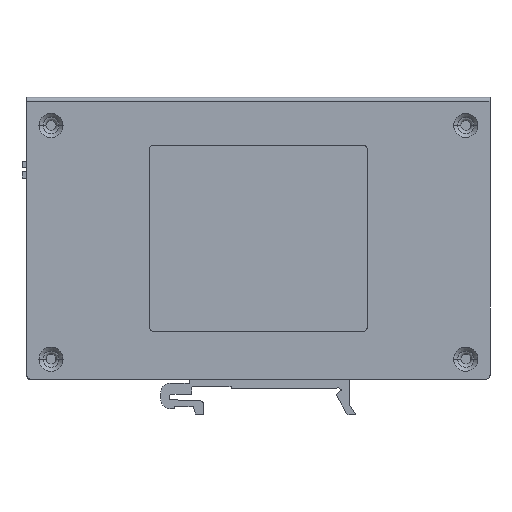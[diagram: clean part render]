
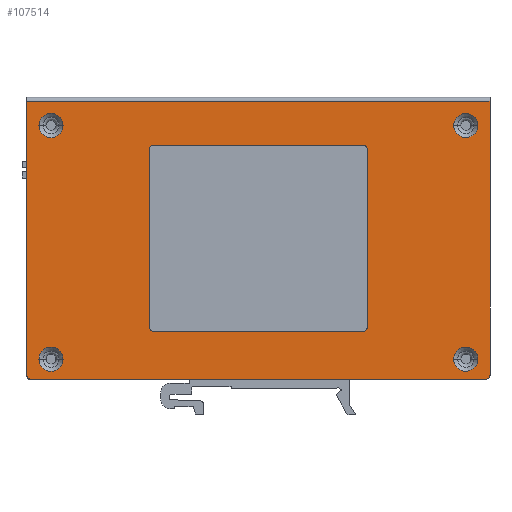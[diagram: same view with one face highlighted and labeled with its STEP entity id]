
A CAD part, left-side view. The second image highlights one B-rep face of the part: STEP entity #107514.
In plain terms, the highlighted planar face has unit normal (-1, 0, 0).
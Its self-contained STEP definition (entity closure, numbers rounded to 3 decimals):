
#105189=DIRECTION('',(0.,1.,0.));
#105190=VECTOR('',#105189,113.);
#105191=CARTESIAN_POINT('',(-49.15,-57.,-34.9));
#105192=LINE('',#105191,#105190);
#105193=CARTESIAN_POINT('',(-49.15,56.,-33.9));
#105194=DIRECTION('',(1.,0.,0.));
#105195=DIRECTION('',(0.,0.,-1.));
#105196=AXIS2_PLACEMENT_3D('',#105193,#105194,#105195);
#105198=DIRECTION('',(0.,0.,1.));
#105199=VECTOR('',#105198,68.);
#105200=CARTESIAN_POINT('',(-49.15,57.,-33.9));
#105201=LINE('',#105200,#105199);
#105202=DIRECTION('',(0.,0.,-1.));
#105203=VECTOR('',#105202,68.);
#105204=CARTESIAN_POINT('',(-49.15,-58.,34.1));
#105205=LINE('',#105204,#105203);
#105206=CARTESIAN_POINT('',(-49.15,-57.,-33.9));
#105207=DIRECTION('',(1.,0.,0.));
#105208=DIRECTION('',(0.,-1.,0.));
#105209=AXIS2_PLACEMENT_3D('',#105206,#105207,#105208);
#105211=CARTESIAN_POINT('',(-49.15,51.,-29.9));
#105212=DIRECTION('',(-1.,0.,0.));
#105213=DIRECTION('',(0.,-1.,0.));
#105214=AXIS2_PLACEMENT_3D('',#105211,#105212,#105213);
#105216=CARTESIAN_POINT('',(-49.15,51.,-29.9));
#105217=DIRECTION('',(-1.,0.,0.));
#105218=DIRECTION('',(0.,1.,0.));
#105219=AXIS2_PLACEMENT_3D('',#105216,#105217,#105218);
#105221=CARTESIAN_POINT('',(-49.15,51.,28.1));
#105222=DIRECTION('',(-1.,0.,0.));
#105223=DIRECTION('',(0.,-1.,0.));
#105224=AXIS2_PLACEMENT_3D('',#105221,#105222,#105223);
#105226=CARTESIAN_POINT('',(-49.15,51.,28.1));
#105227=DIRECTION('',(-1.,0.,0.));
#105228=DIRECTION('',(0.,1.,0.));
#105229=AXIS2_PLACEMENT_3D('',#105226,#105227,#105228);
#105231=CARTESIAN_POINT('',(-49.15,-52.,-29.9));
#105232=DIRECTION('',(-1.,0.,0.));
#105233=DIRECTION('',(0.,-1.,0.));
#105234=AXIS2_PLACEMENT_3D('',#105231,#105232,#105233);
#105236=CARTESIAN_POINT('',(-49.15,-52.,-29.9));
#105237=DIRECTION('',(-1.,0.,0.));
#105238=DIRECTION('',(0.,1.,0.));
#105239=AXIS2_PLACEMENT_3D('',#105236,#105237,#105238);
#105241=CARTESIAN_POINT('',(-49.15,-52.,28.1));
#105242=DIRECTION('',(-1.,0.,0.));
#105243=DIRECTION('',(0.,-1.,0.));
#105244=AXIS2_PLACEMENT_3D('',#105241,#105242,#105243);
#105246=CARTESIAN_POINT('',(-49.15,-52.,28.1));
#105247=DIRECTION('',(-1.,0.,0.));
#105248=DIRECTION('',(0.,1.,0.));
#105249=AXIS2_PLACEMENT_3D('',#105246,#105247,#105248);
#105251=CARTESIAN_POINT('',(-49.15,-26.4,22.));
#105252=DIRECTION('',(-1.,0.,0.));
#105253=DIRECTION('',(0.,-1.,0.));
#105254=AXIS2_PLACEMENT_3D('',#105251,#105252,#105253);
#105256=DIRECTION('',(0.,1.,0.));
#105257=VECTOR('',#105256,51.8);
#105258=CARTESIAN_POINT('',(-49.15,-26.4,23.2));
#105259=LINE('',#105258,#105257);
#105260=CARTESIAN_POINT('',(-49.15,25.4,22.));
#105261=DIRECTION('',(-1.,0.,0.));
#105262=DIRECTION('',(0.,0.,1.));
#105263=AXIS2_PLACEMENT_3D('',#105260,#105261,#105262);
#105265=DIRECTION('',(0.,0.,-1.));
#105266=VECTOR('',#105265,43.8);
#105267=CARTESIAN_POINT('',(-49.15,26.6,22.));
#105268=LINE('',#105267,#105266);
#105269=CARTESIAN_POINT('',(-49.15,25.4,-21.8));
#105270=DIRECTION('',(-1.,0.,0.));
#105271=DIRECTION('',(0.,1.,0.));
#105272=AXIS2_PLACEMENT_3D('',#105269,#105270,#105271);
#105274=DIRECTION('',(0.,-1.,0.));
#105275=VECTOR('',#105274,51.8);
#105276=CARTESIAN_POINT('',(-49.15,25.4,-23.));
#105277=LINE('',#105276,#105275);
#105278=CARTESIAN_POINT('',(-49.15,-26.4,-21.8));
#105279=DIRECTION('',(-1.,0.,0.));
#105280=DIRECTION('',(0.,0.,-1.));
#105281=AXIS2_PLACEMENT_3D('',#105278,#105279,#105280);
#105283=DIRECTION('',(0.,0.,1.));
#105284=VECTOR('',#105283,43.8);
#105285=CARTESIAN_POINT('',(-49.15,-27.6,-21.8));
#105286=LINE('',#105285,#105284);
#105303=DIRECTION('',(0.,1.,0.));
#105304=VECTOR('',#105303,115.);
#105305=CARTESIAN_POINT('',(-49.15,-58.,34.1));
#105306=LINE('',#105305,#105304);
#106491=CARTESIAN_POINT('',(-49.15,-58.,34.1));
#106492=VERTEX_POINT('',#106491);
#106495=CARTESIAN_POINT('',(-49.15,-58.,-33.9));
#106496=VERTEX_POINT('',#106495);
#106607=CARTESIAN_POINT('',(-49.15,57.,34.1));
#106608=VERTEX_POINT('',#106607);
#106609=CARTESIAN_POINT('',(-49.15,57.,-33.9));
#106610=VERTEX_POINT('',#106609);
#106611=CARTESIAN_POINT('',(-49.15,-57.,-34.9));
#106612=CARTESIAN_POINT('',(-49.15,56.,-34.9));
#106613=VERTEX_POINT('',#106611);
#106614=VERTEX_POINT('',#106612);
#106615=CARTESIAN_POINT('',(-49.15,48.,-29.9));
#106616=CARTESIAN_POINT('',(-49.15,54.,-29.9));
#106617=VERTEX_POINT('',#106615);
#106618=VERTEX_POINT('',#106616);
#106619=CARTESIAN_POINT('',(-49.15,48.,28.1));
#106620=CARTESIAN_POINT('',(-49.15,54.,28.1));
#106621=VERTEX_POINT('',#106619);
#106622=VERTEX_POINT('',#106620);
#106623=CARTESIAN_POINT('',(-49.15,-55.,-29.9));
#106624=CARTESIAN_POINT('',(-49.15,-49.,-29.9));
#106625=VERTEX_POINT('',#106623);
#106626=VERTEX_POINT('',#106624);
#106627=CARTESIAN_POINT('',(-49.15,-55.,28.1));
#106628=CARTESIAN_POINT('',(-49.15,-49.,28.1));
#106629=VERTEX_POINT('',#106627);
#106630=VERTEX_POINT('',#106628);
#106631=CARTESIAN_POINT('',(-49.15,-27.6,22.));
#106632=CARTESIAN_POINT('',(-49.15,-26.4,23.2));
#106633=VERTEX_POINT('',#106631);
#106634=VERTEX_POINT('',#106632);
#106635=CARTESIAN_POINT('',(-49.15,25.4,23.2));
#106636=VERTEX_POINT('',#106635);
#106637=CARTESIAN_POINT('',(-49.15,26.6,22.));
#106638=VERTEX_POINT('',#106637);
#106639=CARTESIAN_POINT('',(-49.15,26.6,-21.8));
#106640=VERTEX_POINT('',#106639);
#106641=CARTESIAN_POINT('',(-49.15,25.4,-23.));
#106642=VERTEX_POINT('',#106641);
#106643=CARTESIAN_POINT('',(-49.15,-26.4,-23.));
#106644=VERTEX_POINT('',#106643);
#106645=CARTESIAN_POINT('',(-49.15,-27.6,-21.8));
#106646=VERTEX_POINT('',#106645);
#107455=CARTESIAN_POINT('',(-49.15,-58.,34.1));
#107456=DIRECTION('',(1.,0.,0.));
#107457=DIRECTION('',(0.,-1.,0.));
#107458=AXIS2_PLACEMENT_3D('',#107455,#107456,#107457);
#107459=PLANE('',#107458);
#107461=ORIENTED_EDGE('',*,*,#107460,.T.);
#107463=ORIENTED_EDGE('',*,*,#107462,.T.);
#107464=ORIENTED_EDGE('',*,*,#107446,.T.);
#107466=ORIENTED_EDGE('',*,*,#107465,.F.);
#107467=ORIENTED_EDGE('',*,*,#107022,.T.);
#107469=ORIENTED_EDGE('',*,*,#107468,.T.);
#107470=EDGE_LOOP('',(#107461,#107463,#107464,#107466,#107467,#107469));
#107471=FACE_OUTER_BOUND('',#107470,.F.);
#107473=ORIENTED_EDGE('',*,*,#107472,.T.);
#107475=ORIENTED_EDGE('',*,*,#107474,.T.);
#107476=EDGE_LOOP('',(#107473,#107475));
#107477=FACE_BOUND('',#107476,.F.);
#107479=ORIENTED_EDGE('',*,*,#107478,.T.);
#107481=ORIENTED_EDGE('',*,*,#107480,.T.);
#107482=EDGE_LOOP('',(#107479,#107481));
#107483=FACE_BOUND('',#107482,.F.);
#107485=ORIENTED_EDGE('',*,*,#107484,.T.);
#107487=ORIENTED_EDGE('',*,*,#107486,.T.);
#107488=EDGE_LOOP('',(#107485,#107487));
#107489=FACE_BOUND('',#107488,.F.);
#107491=ORIENTED_EDGE('',*,*,#107490,.T.);
#107493=ORIENTED_EDGE('',*,*,#107492,.T.);
#107494=EDGE_LOOP('',(#107491,#107493));
#107495=FACE_BOUND('',#107494,.F.);
#107497=ORIENTED_EDGE('',*,*,#107496,.T.);
#107499=ORIENTED_EDGE('',*,*,#107498,.T.);
#107501=ORIENTED_EDGE('',*,*,#107500,.T.);
#107503=ORIENTED_EDGE('',*,*,#107502,.T.);
#107505=ORIENTED_EDGE('',*,*,#107504,.T.);
#107507=ORIENTED_EDGE('',*,*,#107506,.T.);
#107509=ORIENTED_EDGE('',*,*,#107508,.T.);
#107511=ORIENTED_EDGE('',*,*,#107510,.T.);
#107512=EDGE_LOOP('',(#107497,#107499,#107501,#107503,#107505,#107507,#107509,
#107511));
#107513=FACE_BOUND('',#107512,.F.);
#107514=ADVANCED_FACE('',(#107471,#107477,#107483,#107489,#107495,#107513),
#107459,.F.);
#105197=CIRCLE('',#105196,1.);
#105210=CIRCLE('',#105209,1.);
#105215=CIRCLE('',#105214,3.);
#105220=CIRCLE('',#105219,3.);
#105225=CIRCLE('',#105224,3.);
#105230=CIRCLE('',#105229,3.);
#105235=CIRCLE('',#105234,3.);
#105240=CIRCLE('',#105239,3.);
#105245=CIRCLE('',#105244,3.);
#105250=CIRCLE('',#105249,3.);
#105255=CIRCLE('',#105254,1.2);
#105264=CIRCLE('',#105263,1.2);
#105273=CIRCLE('',#105272,1.2);
#105282=CIRCLE('',#105281,1.2);
#107022=EDGE_CURVE('',#106492,#106496,#105205,.T.);
#107446=EDGE_CURVE('',#106610,#106608,#105201,.T.);
#107460=EDGE_CURVE('',#106613,#106614,#105192,.T.);
#107462=EDGE_CURVE('',#106614,#106610,#105197,.T.);
#107465=EDGE_CURVE('',#106492,#106608,#105306,.T.);
#107468=EDGE_CURVE('',#106496,#106613,#105210,.T.);
#107472=EDGE_CURVE('',#106617,#106618,#105215,.T.);
#107474=EDGE_CURVE('',#106618,#106617,#105220,.T.);
#107478=EDGE_CURVE('',#106621,#106622,#105225,.T.);
#107480=EDGE_CURVE('',#106622,#106621,#105230,.T.);
#107484=EDGE_CURVE('',#106625,#106626,#105235,.T.);
#107486=EDGE_CURVE('',#106626,#106625,#105240,.T.);
#107490=EDGE_CURVE('',#106629,#106630,#105245,.T.);
#107492=EDGE_CURVE('',#106630,#106629,#105250,.T.);
#107496=EDGE_CURVE('',#106633,#106634,#105255,.T.);
#107498=EDGE_CURVE('',#106634,#106636,#105259,.T.);
#107500=EDGE_CURVE('',#106636,#106638,#105264,.T.);
#107502=EDGE_CURVE('',#106638,#106640,#105268,.T.);
#107504=EDGE_CURVE('',#106640,#106642,#105273,.T.);
#107506=EDGE_CURVE('',#106642,#106644,#105277,.T.);
#107508=EDGE_CURVE('',#106644,#106646,#105282,.T.);
#107510=EDGE_CURVE('',#106646,#106633,#105286,.T.);
